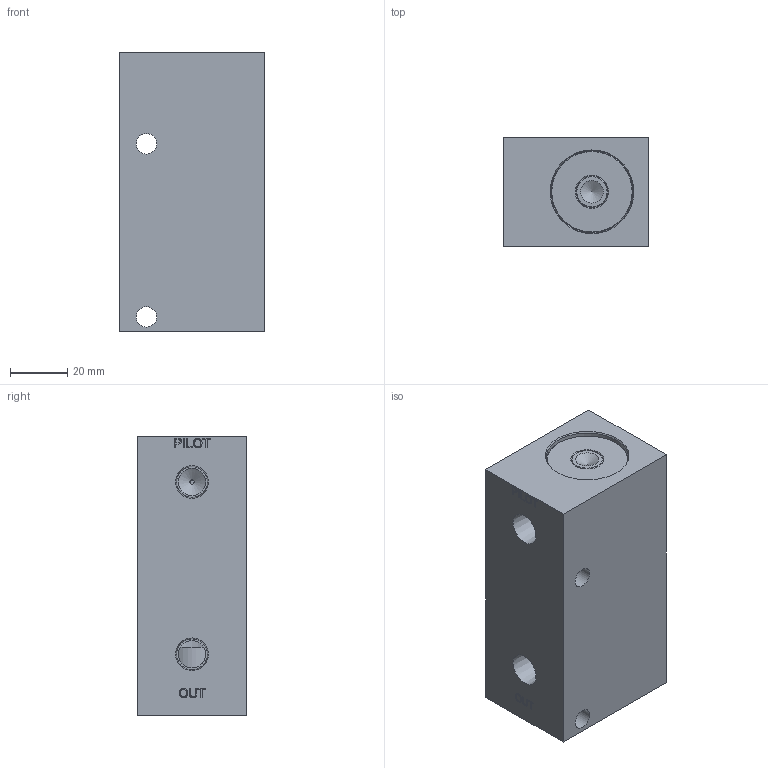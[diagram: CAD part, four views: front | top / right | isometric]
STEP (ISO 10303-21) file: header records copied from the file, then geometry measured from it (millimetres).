
FILE_DESCRIPTION(/* description */ (''),/* implementation_level */ '2;1');
FILE_NAME(/* name */ 'L:\ALADCO\Advertising\3D Content\Valves\Step Files - 2014-11-19 thru Present\31250X.stp',/* time_stamp */ '2014-11-19T13:50:23-06:00',/* author */ ('dmatz'),/* organization */ ('Aladdin Eng. & Manf. Inc.'),/* preprocessor_version */ 'ST-DEVELOPER v15.2',/* originating_system */ 'Autodesk Inventor 2014',/* authorisation */ '0 in^3');
FILE_SCHEMA (('AUTOMOTIVE_DESIGN { 1 0 10303 214 3 1 1 }'));
Length unit declared in the file: inch
Products named in the file (6): 311039; 301076; 311015; 311020; 301015; 312501
Bounding box: 50.8 x 38.1 x 97.23 mm (x, y, z)
Volume: 155207.6 mm3; surface area: 38321.2 mm2
Topology: 5 solids, 5 shells, 200 faces, 450 edges, 294 vertices
Faces by surface type: plane 104, cylinder 35, bspline 26, cone 22, torus 13
Full cylindrical faces by diameter (mm): 1.499 x1, 3.175 x1, 5.156 x1, 6.35 x2, 6.629 x1, 7.112 x2, 7.938 x1, 9.144 x1, 9.525 x3, 10.719 x3, 11.049 x2, 11.1 x1, 12.7 x1, 13.081 x1, 13.462 x1, 15.081 x1, 17.577 x1, 22.149 x1, 24.409 x1, 24.435 x1, 25.4 x2, 28.524 x4, 28.575 x2
Entity records: 5787 total; most frequent: CARTESIAN_POINT 1481, DIRECTION 772, ORIENTED_EDGE 720, EDGE_CURVE 360, EDGE_LOOP 320, AXIS2_PLACEMENT_3D 286, VERTEX_POINT 274, LINE 200
